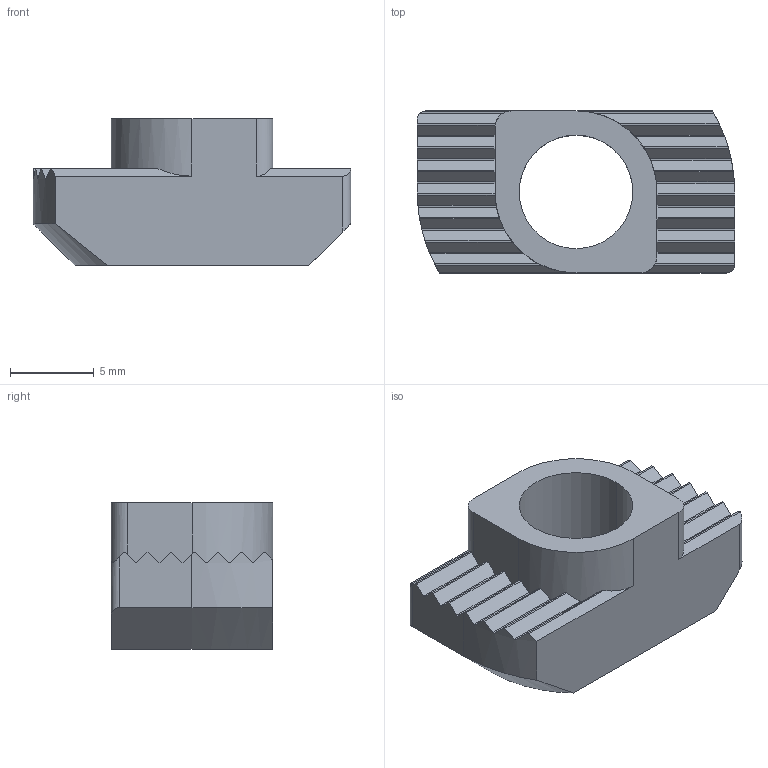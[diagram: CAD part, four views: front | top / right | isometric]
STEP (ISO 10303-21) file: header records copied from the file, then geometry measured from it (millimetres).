
FILE_DESCRIPTION (( 'STEP AP203' ), '1' );
FILE_NAME ('0110HMM8ST.STEP', '2024-09-06T07:50:41', ( 'Windows-Benutzer' ), ( '' ), 'SwSTEP 2.0', 'SolidWorks 2024', '' );
FILE_SCHEMA (( 'CONFIG_CONTROL_DESIGN' ));
Length unit declared in the file: millimetre
Products named in the file (1): 0110HMM8ST
Bounding box: 19 x 9.7 x 8.8 mm (x, y, z)
Volume: 883.8 mm3; surface area: 875.6 mm2
Topology: 1 solids, 1 shells, 78 faces, 230 edges, 154 vertices
Faces by surface type: plane 66, cylinder 10, bspline 2
Entity records: 2714 total; most frequent: CARTESIAN_POINT 643, ORIENTED_EDGE 460, DIRECTION 379, EDGE_CURVE 230, VERTEX_POINT 154, LINE 143, VECTOR 143, AXIS2_PLACEMENT_3D 118
